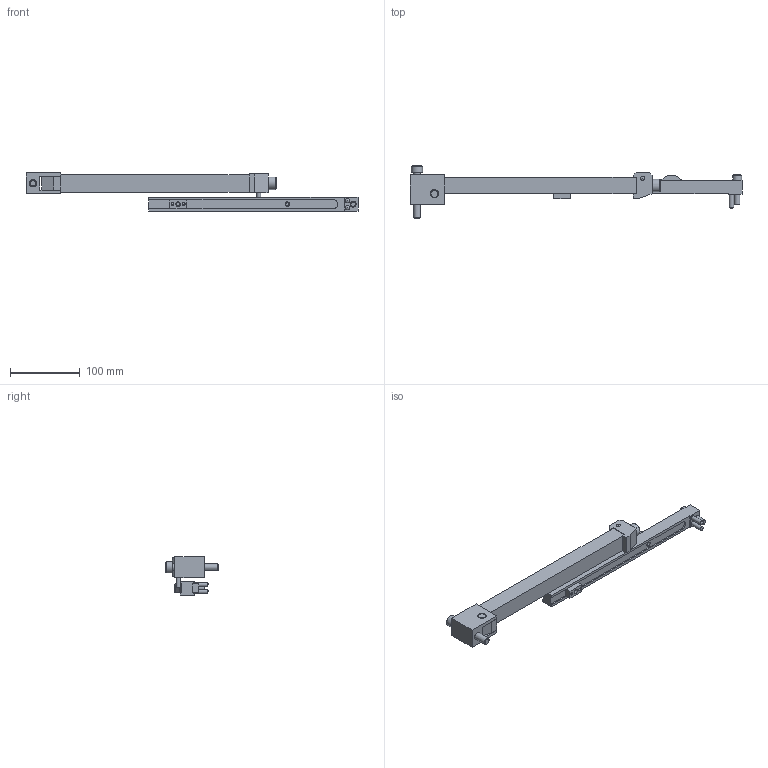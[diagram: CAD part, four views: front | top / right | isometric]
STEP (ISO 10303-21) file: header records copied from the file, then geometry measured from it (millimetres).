
FILE_DESCRIPTION( ( 'STEP AP214' ), '1' );
FILE_NAME( 'p:/temp/worker_5/temp/exporttempdir_4160_298_F8Rsa/format_0/BOX300FIX.stp', '2021-02-11T19:31:28', ( 'License CC BY-ND 4.0' ), ( 'CADENAS' ), ' ', 'PARTsolutions', ' ' );
FILE_SCHEMA( ( 'AUTOMOTIVE_DESIGN { 1 0 10303 214 1 1 1 1 }' ) );
Length unit declared in the file: millimetre
Products named in the file (17): BOX300FIX; _ZH90/4_head; _ZH90/4_screw1; _ZH90/4_hand; _ZH90/4_screw2; _ZH90/4_he; _ZH90/4_screw3; _ZH90/4_stift1; _ZH90/4_stift2; _ZH90/05_body; _M8-5; _ST2; _ZH90/05_foot3; _M6-3; _M6-4; _ZH90/05_foot4; _ST1
Assembly tree (18 placements, depth 2):
  BOX300FIX
    _ZH90/4_head
    _ZH90/4_screw1
    _ZH90/4_hand
    _ZH90/4_screw2
    _ZH90/4_he
    _ZH90/4_screw3
    _ZH90/4_stift1
    _ZH90/4_stift2
    _ZH90/05_body
    _M8-5
    _ST2  x2
    _ZH90/05_foot3
    _M6-3
    _M6-4
    _ZH90/05_foot4
    _ST1  x2
Bounding box: 476 x 75 x 55 mm (x, y, z)
Volume: 349777.3 mm3; surface area: 97517.7 mm2
Topology: 18 solids, 18 shells, 195 faces, 460 edges, 301 vertices
Faces by surface type: plane 128, cylinder 39, cone 18, sphere 10
Full cylindrical faces by diameter (mm): 4 x6, 4.134 x1, 5 x1, 6 x8, 6.6 x4, 8 x1, 8.4 x1, 10 x2, 10.106 x1, 10.5 x1, 11 x2, 12 x5, 13 x2, 16 x1, 18 x1
Entity records: 6862 total; most frequent: CARTESIAN_POINT 916, DIRECTION 872, ORIENTED_EDGE 730, EDGE_CURVE 365, AXIS2_PLACEMENT_3D 302, EDGE_LOOP 288, VERTEX_POINT 278, LINE 268
